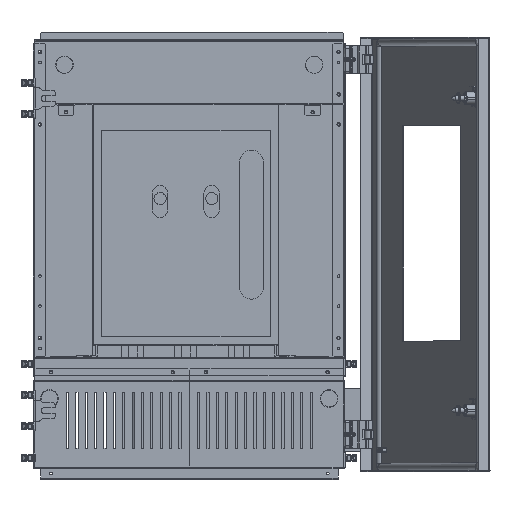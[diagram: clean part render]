
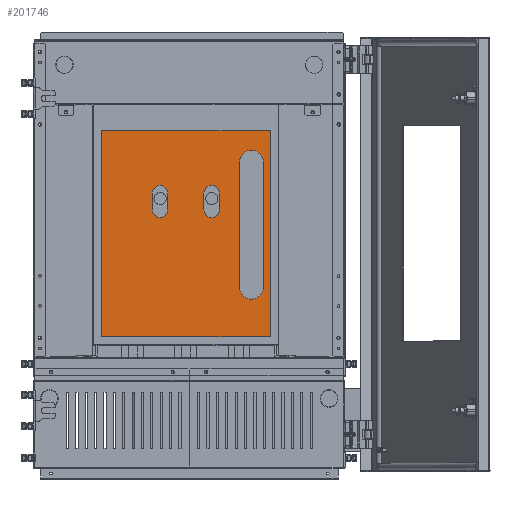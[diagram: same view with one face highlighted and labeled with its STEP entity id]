
A CAD part, top view. The second image highlights one B-rep face of the part: STEP entity #201746.
In plain terms, the highlighted planar face has unit normal (0, 0, 1).
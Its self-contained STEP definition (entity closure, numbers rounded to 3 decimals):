
#200776=CARTESIAN_POINT(' ',(41.334,50.593,295.8));
#200781=DIRECTION(' ',(0.,0.,1.));
#200786=DIRECTION(' ',(1.,0.,0.));
#200791=AXIS2_PLACEMENT_3D(' ',#200776,#200781,#200786);
#200796=CIRCLE('',#200791,12.356);
#200801=CARTESIAN_POINT(' ',(53.69,50.593,295.8));
#200802=VERTEX_POINT(' ',#200801);
#200806=CARTESIAN_POINT(' ',(28.977,50.593,295.8));
#200807=VERTEX_POINT(' ',#200806);
#200811=EDGE_CURVE(' ',#200802,#200807,#200796,.T.);
#200926=CARTESIAN_POINT(' ',(28.977,50.593,295.8));
#200931=DIRECTION(' ',(0.,-1.,0.));
#200936=VECTOR(' ',#200931,1.);
#200941=LINE('',#200926,#200936);
#200946=CARTESIAN_POINT(' ',(28.977,23.674,295.8));
#200947=VERTEX_POINT(' ',#200946);
#200951=EDGE_CURVE(' ',#200807,#200947,#200941,.T.);
#201041=CARTESIAN_POINT(' ',(41.334,23.674,295.8));
#201046=DIRECTION(' ',(0.,-0.,1.));
#201051=DIRECTION(' ',(-1.,0.,0.));
#201056=AXIS2_PLACEMENT_3D(' ',#201041,#201046,#201051);
#201061=CIRCLE('',#201056,12.356);
#201066=CARTESIAN_POINT(' ',(53.69,23.674,295.8));
#201067=VERTEX_POINT(' ',#201066);
#201071=EDGE_CURVE(' ',#200947,#201067,#201061,.T.);
#201161=CARTESIAN_POINT(' ',(53.69,23.674,295.8));
#201166=DIRECTION(' ',(0.,1.,0.));
#201171=VECTOR(' ',#201166,1.);
#201176=LINE('',#201161,#201171);
#201181=EDGE_CURVE(' ',#201067,#200802,#201176,.T.);
#201221=DIRECTION(' ',(-0.,0.,1.));
#201226=CARTESIAN_POINT(' ',(-135.,-179.2,295.8));
#201231=DIRECTION(' ',(1.,0.,0.));
#201236=AXIS2_PLACEMENT_3D(' ',#201226,#201221,#201231);
#201241=PLANE('NONE',#201236);
#201246=CARTESIAN_POINT(' ',(-135.,150.8,295.8));
#201251=DIRECTION(' ',(0.,-1.,0.));
#201256=VECTOR(' ',#201251,1.);
#201261=LINE('',#201246,#201256);
#201266=CARTESIAN_POINT(' ',(-135.,150.8,295.8));
#201267=VERTEX_POINT(' ',#201266);
#201271=CARTESIAN_POINT(' ',(-135.,-179.2,295.8));
#201272=VERTEX_POINT(' ',#201271);
#201276=EDGE_CURVE(' ',#201267,#201272,#201261,.T.);
#201281=ORIENTED_EDGE(' ',*,*,#201276,.T.);
#201286=CARTESIAN_POINT(' ',(-135.,-179.2,295.8));
#201291=DIRECTION(' ',(1.,0.,0.));
#201296=VECTOR(' ',#201291,1.);
#201301=LINE('',#201286,#201296);
#201306=CARTESIAN_POINT(' ',(135.,-179.2,295.8));
#201307=VERTEX_POINT(' ',#201306);
#201311=EDGE_CURVE(' ',#201272,#201307,#201301,.T.);
#201316=ORIENTED_EDGE(' ',*,*,#201311,.T.);
#201321=CARTESIAN_POINT(' ',(135.,-179.2,295.8));
#201326=DIRECTION(' ',(0.,1.,0.));
#201331=VECTOR(' ',#201326,1.);
#201336=LINE('',#201321,#201331);
#201341=CARTESIAN_POINT(' ',(135.,150.8,295.8));
#201342=VERTEX_POINT(' ',#201341);
#201346=EDGE_CURVE(' ',#201307,#201342,#201336,.T.);
#201351=ORIENTED_EDGE(' ',*,*,#201346,.T.);
#201356=CARTESIAN_POINT(' ',(135.,150.8,295.8));
#201361=DIRECTION(' ',(-1.,0.,0.));
#201366=VECTOR(' ',#201361,1.);
#201371=LINE('',#201356,#201366);
#201376=EDGE_CURVE(' ',#201342,#201267,#201371,.T.);
#201381=ORIENTED_EDGE(' ',*,*,#201376,.T.);
#201386=EDGE_LOOP(' ',(#201281,#201316,#201351,#201381));
#201391=FACE_OUTER_BOUND(' ',#201386,.T.);
#201396=CARTESIAN_POINT(' ',(104.972,-100.338,295.8));
#201401=DIRECTION(' ',(0.,-0.,1.));
#201406=DIRECTION(' ',(-1.,0.,0.));
#201411=AXIS2_PLACEMENT_3D(' ',#201396,#201401,#201406);
#201416=CIRCLE('',#201411,18.845);
#201421=CARTESIAN_POINT(' ',(86.127,-100.338,295.8));
#201422=VERTEX_POINT(' ',#201421);
#201426=CARTESIAN_POINT(' ',(123.818,-100.338,295.8));
#201427=VERTEX_POINT(' ',#201426);
#201431=EDGE_CURVE(' ',#201422,#201427,#201416,.T.);
#201436=ORIENTED_EDGE(' ',*,*,#201431,.F.);
#201441=CARTESIAN_POINT(' ',(86.127,100.338,295.8));
#201446=DIRECTION(' ',(0.,-1.,0.));
#201451=VECTOR(' ',#201446,1.);
#201456=LINE('',#201441,#201451);
#201461=CARTESIAN_POINT(' ',(86.127,100.338,295.8));
#201462=VERTEX_POINT(' ',#201461);
#201466=EDGE_CURVE(' ',#201462,#201422,#201456,.T.);
#201471=ORIENTED_EDGE(' ',*,*,#201466,.F.);
#201476=CARTESIAN_POINT(' ',(104.972,100.338,295.8));
#201481=DIRECTION(' ',(0.,0.,1.));
#201486=DIRECTION(' ',(1.,0.,0.));
#201491=AXIS2_PLACEMENT_3D(' ',#201476,#201481,#201486);
#201496=CIRCLE('',#201491,18.845);
#201501=CARTESIAN_POINT(' ',(123.818,100.338,295.8));
#201502=VERTEX_POINT(' ',#201501);
#201506=EDGE_CURVE(' ',#201502,#201462,#201496,.T.);
#201511=ORIENTED_EDGE(' ',*,*,#201506,.F.);
#201516=CARTESIAN_POINT(' ',(123.818,-100.338,295.8));
#201521=DIRECTION(' ',(0.,1.,0.));
#201526=VECTOR(' ',#201521,1.);
#201531=LINE('',#201516,#201526);
#201536=EDGE_CURVE(' ',#201427,#201502,#201531,.T.);
#201541=ORIENTED_EDGE(' ',*,*,#201536,.F.);
#201546=EDGE_LOOP(' ',(#201436,#201471,#201511,#201541));
#201551=FACE_BOUND(' ',#201546,.T.);
#201556=ORIENTED_EDGE(' ',*,*,#200811,.F.);
#201561=ORIENTED_EDGE(' ',*,*,#201181,.F.);
#201566=ORIENTED_EDGE(' ',*,*,#201071,.F.);
#201571=ORIENTED_EDGE(' ',*,*,#200951,.F.);
#201576=EDGE_LOOP(' ',(#201556,#201561,#201566,#201571));
#201581=FACE_BOUND(' ',#201576,.T.);
#201586=CARTESIAN_POINT(' ',(-41.334,50.593,295.8));
#201591=DIRECTION(' ',(0.,0.,1.));
#201596=DIRECTION(' ',(1.,0.,0.));
#201601=AXIS2_PLACEMENT_3D(' ',#201586,#201591,#201596);
#201606=CIRCLE('',#201601,12.356);
#201611=CARTESIAN_POINT(' ',(-28.977,50.593,295.8));
#201612=VERTEX_POINT(' ',#201611);
#201616=CARTESIAN_POINT(' ',(-53.69,50.593,295.8));
#201617=VERTEX_POINT(' ',#201616);
#201621=EDGE_CURVE(' ',#201612,#201617,#201606,.T.);
#201626=ORIENTED_EDGE(' ',*,*,#201621,.F.);
#201631=CARTESIAN_POINT(' ',(-28.977,23.674,295.8));
#201636=DIRECTION(' ',(0.,1.,0.));
#201641=VECTOR(' ',#201636,1.);
#201646=LINE('',#201631,#201641);
#201651=CARTESIAN_POINT(' ',(-28.977,23.674,295.8));
#201652=VERTEX_POINT(' ',#201651);
#201656=EDGE_CURVE(' ',#201652,#201612,#201646,.T.);
#201661=ORIENTED_EDGE(' ',*,*,#201656,.F.);
#201666=CARTESIAN_POINT(' ',(-41.334,23.674,295.8));
#201671=DIRECTION(' ',(0.,-0.,1.));
#201676=DIRECTION(' ',(-1.,0.,0.));
#201681=AXIS2_PLACEMENT_3D(' ',#201666,#201671,#201676);
#201686=CIRCLE('',#201681,12.356);
#201691=CARTESIAN_POINT(' ',(-53.69,23.674,295.8));
#201692=VERTEX_POINT(' ',#201691);
#201696=EDGE_CURVE(' ',#201692,#201652,#201686,.T.);
#201701=ORIENTED_EDGE(' ',*,*,#201696,.F.);
#201706=CARTESIAN_POINT(' ',(-53.69,50.593,295.8));
#201711=DIRECTION(' ',(0.,-1.,0.));
#201716=VECTOR(' ',#201711,1.);
#201721=LINE('',#201706,#201716);
#201726=EDGE_CURVE(' ',#201617,#201692,#201721,.T.);
#201731=ORIENTED_EDGE(' ',*,*,#201726,.F.);
#201736=EDGE_LOOP(' ',(#201626,#201661,#201701,#201731));
#201741=FACE_BOUND(' ',#201736,.T.);
#201746=ADVANCED_FACE('NONE',(#201391,#201551,#201581,#201741),#201241,.T.);
